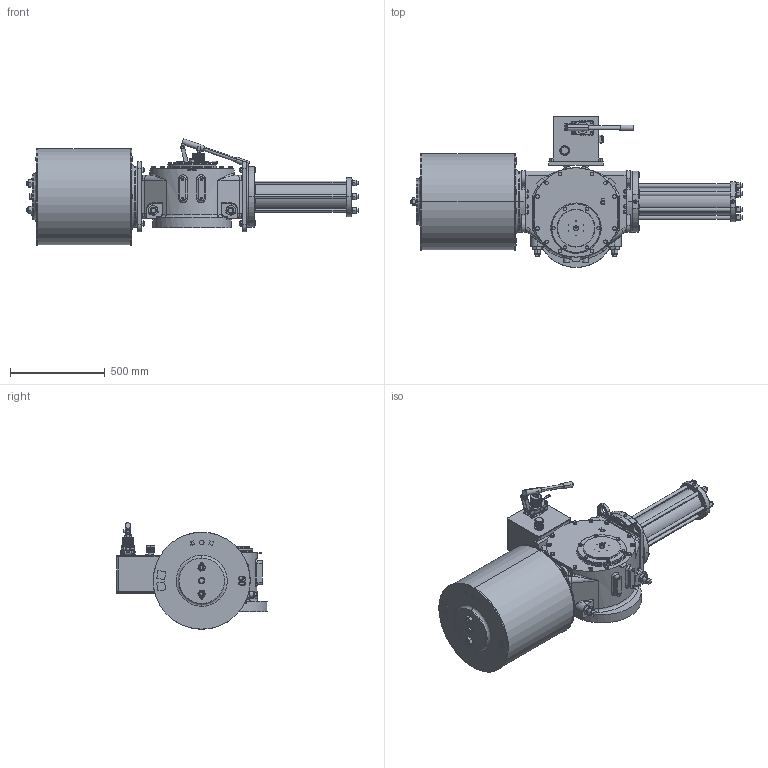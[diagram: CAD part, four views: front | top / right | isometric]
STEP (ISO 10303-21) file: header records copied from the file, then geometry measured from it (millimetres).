
FILE_DESCRIPTION (( 'STEP AP203' ), '1' );
FILE_NAME ('VTS5-500-MH.STEP', '2022-12-15T01:28:55', ( '' ), ( '' ), 'SwSTEP 2.0', 'SolidWorks 2020', '' );
FILE_SCHEMA (( 'CONFIG_CONTROL_DESIGN' ));
Length unit declared in the file: millimetre
Products named in the file (1): VTS5-500-MH
Bounding box: 1755 x 797.5 x 563.77 mm (x, y, z)
Volume: 183939977.5 mm3; surface area: 4505690.1 mm2
Topology: 79 solids, 81 shells, 3381 faces, 8309 edges, 5232 vertices
Faces by surface type: plane 1408, cylinder 1077, cone 787, bspline 109
Entity records: 114390 total; most frequent: CARTESIAN_POINT 35011, DIRECTION 16667, ORIENTED_EDGE 16462, EDGE_CURVE 8231, AXIS2_PLACEMENT_3D 6571, VERTEX_POINT 5232, EDGE_LOOP 3839, VECTOR 3525
